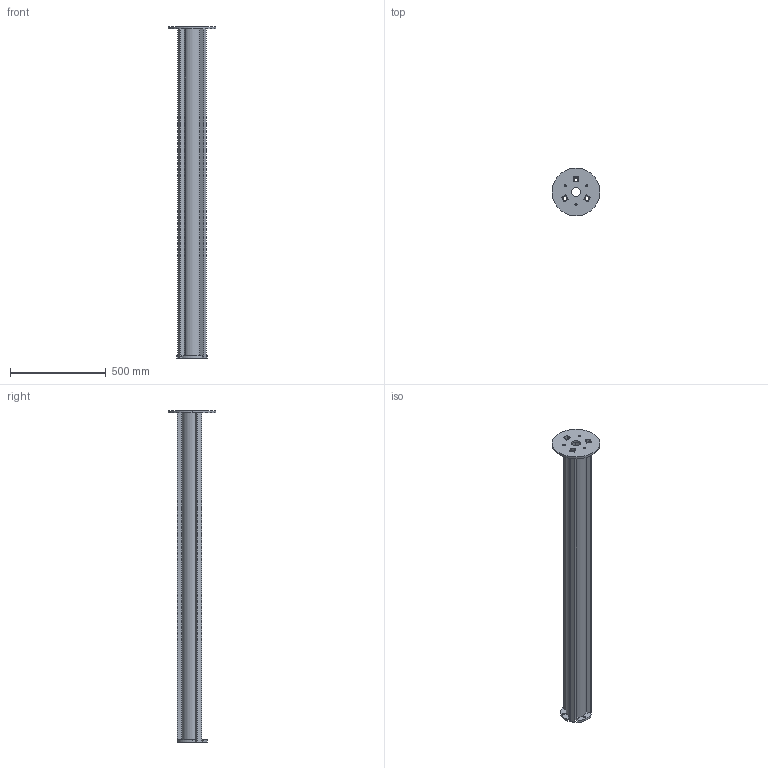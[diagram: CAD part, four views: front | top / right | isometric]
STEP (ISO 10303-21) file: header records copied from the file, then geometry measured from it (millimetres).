
FILE_DESCRIPTION (( 'STEP AP203' ), '1' );
FILE_NAME ('T-AB1830(72IN)-EURO-02禱芃杶郪璃.STEP', '2025-10-29T12:32:18', ( '' ), ( '' ), 'SwSTEP 2.0', 'SolidWorks 2018', '' );
FILE_SCHEMA (( 'CONFIG_CONTROL_DESIGN' ));
Length unit declared in the file: millimetre
Products named in the file (5): S-CB1830-07-03-Q345埴啣T12; T-AB1830(72IN)-EURO-02-01-Q355B埴啣; FG-T3×25×25-1730-Q235方管; T-AB1830(72IN)-EURO-02禱芃杶郪璃; WFG-T4℅耳102-1703-20# 拸瑜奪
Assembly tree (6 placements, depth 2):
  T-AB1830(72IN)-EURO-02禱芃杶郪璃
    T-AB1830(72IN)-EURO-02-01-Q355B埴啣
    S-CB1830-07-03-Q345埴啣T12
    FG-T3×25×25-1730-Q235方管  x3
    WFG-T4℅耳102-1703-20# 拸瑜奪
Bounding box: 250 x 250 x 1730 mm (x, y, z)
Volume: 4144133.7 mm3; surface area: 2107103.9 mm2
Topology: 6 solids, 6 shells, 89 faces, 225 edges, 148 vertices
Faces by surface type: plane 57, cylinder 26, cone 6
Entity records: 2740 total; most frequent: DIRECTION 391, CARTESIAN_POINT 371, ORIENTED_EDGE 354, EDGE_CURVE 177, AXIS2_PLACEMENT_3D 136, LINE 119, VECTOR 119, VERTEX_POINT 116
